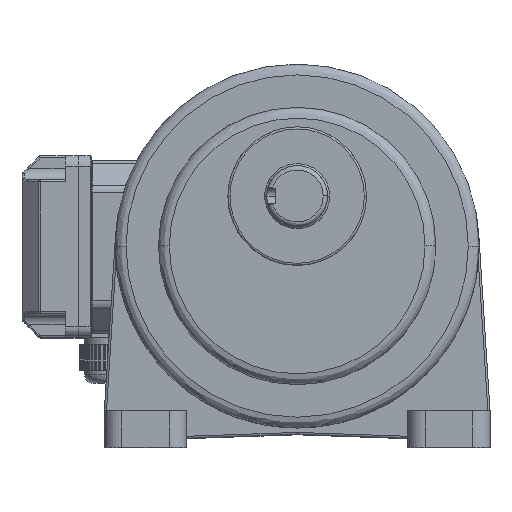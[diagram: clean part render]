
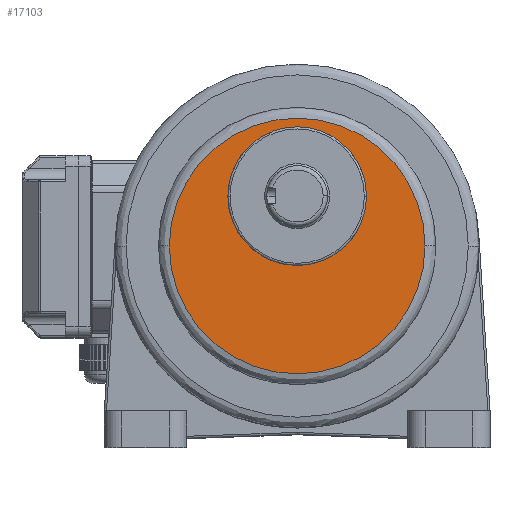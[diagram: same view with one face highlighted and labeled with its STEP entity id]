
A CAD part, top view. The second image highlights one B-rep face of the part: STEP entity #17103.
In plain terms, the highlighted planar face has unit normal (0, 0, 1).
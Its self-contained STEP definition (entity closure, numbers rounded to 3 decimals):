
#192 = DIRECTION ( 'NONE',  ( 1., 0., 0. ) ) ;
#3008 = EDGE_CURVE ( 'NONE', #68663, #27105, #29530, .T. ) ;
#3362 = CIRCLE ( 'NONE', #27199, 32. ) ;
#4564 = AXIS2_PLACEMENT_3D ( 'NONE', #48785, #32840, #79183 ) ;
#10290 = ORIENTED_EDGE ( 'NONE', *, *, #51156, .F. ) ;
#16797 = AXIS2_PLACEMENT_3D ( 'NONE', #33314, #48280, #86637 ) ;
#16882 = DIRECTION ( 'NONE',  ( 0., 0., 1. ) ) ;
#17103 = ADVANCED_FACE ( 'NONE', ( #79651, #86146 ), #94139, .T. ) ;
#20185 = CARTESIAN_POINT ( 'NONE',  ( 102.841, 96.278, 53.336 ) ) ;
#21840 = CIRCLE ( 'NONE', #98334, 59. ) ;
#22528 = DIRECTION ( 'NONE',  ( 1., 0., 0. ) ) ;
#27105 = VERTEX_POINT ( 'NONE', #62040 ) ;
#27199 = AXIS2_PLACEMENT_3D ( 'NONE', #32377, #16882, #46849 ) ;
#29530 = CIRCLE ( 'NONE', #34074, 32. ) ;
#32377 = CARTESIAN_POINT ( 'NONE',  ( 43.841, 119.278, 53.336 ) ) ;
#32840 = DIRECTION ( 'NONE',  ( 0., 0., 1. ) ) ;
#33314 = CARTESIAN_POINT ( 'NONE',  ( 43.841, 96.278, 53.336 ) ) ;
#34074 = AXIS2_PLACEMENT_3D ( 'NONE', #97856, #90853, #22528 ) ;
#35326 = CARTESIAN_POINT ( 'NONE',  ( 11.841, 119.278, 53.336 ) ) ;
#39580 = CARTESIAN_POINT ( 'NONE',  ( -15.159, 96.278, 53.336 ) ) ;
#46849 = DIRECTION ( 'NONE',  ( 1., 0., 0. ) ) ;
#48250 = EDGE_CURVE ( 'NONE', #75111, #83355, #77832, .T. ) ;
#48280 = DIRECTION ( 'NONE',  ( 0., 0., 1. ) ) ;
#48785 = CARTESIAN_POINT ( 'NONE',  ( 43.841, 96.278, 53.336 ) ) ;
#50775 = EDGE_LOOP ( 'NONE', ( #82441, #57426 ) ) ;
#51156 = EDGE_CURVE ( 'NONE', #27105, #68663, #3362, .T. ) ;
#54533 = DIRECTION ( 'NONE',  ( 0., 0., 1. ) ) ;
#57426 = ORIENTED_EDGE ( 'NONE', *, *, #78982, .T. ) ;
#61257 = ORIENTED_EDGE ( 'NONE', *, *, #3008, .F. ) ;
#62040 = CARTESIAN_POINT ( 'NONE',  ( 75.841, 119.278, 53.336 ) ) ;
#68491 = CARTESIAN_POINT ( 'NONE',  ( 43.841, 96.278, 53.336 ) ) ;
#68663 = VERTEX_POINT ( 'NONE', #35326 ) ;
#75111 = VERTEX_POINT ( 'NONE', #20185 ) ;
#77832 = CIRCLE ( 'NONE', #4564, 59. ) ;
#78982 = EDGE_CURVE ( 'NONE', #83355, #75111, #21840, .T. ) ;
#79183 = DIRECTION ( 'NONE',  ( 1., 0., 0. ) ) ;
#79651 = FACE_OUTER_BOUND ( 'NONE', #50775, .T. ) ;
#82441 = ORIENTED_EDGE ( 'NONE', *, *, #48250, .T. ) ;
#83355 = VERTEX_POINT ( 'NONE', #39580 ) ;
#85705 = EDGE_LOOP ( 'NONE', ( #10290, #61257 ) ) ;
#86146 = FACE_BOUND ( 'NONE', #85705, .T. ) ;
#86637 = DIRECTION ( 'NONE',  ( 1., 0., 0. ) ) ;
#90853 = DIRECTION ( 'NONE',  ( 0., 0., 1. ) ) ;
#94139 = PLANE ( 'NONE',  #16797 ) ;
#97856 = CARTESIAN_POINT ( 'NONE',  ( 43.841, 119.278, 53.336 ) ) ;
#98334 = AXIS2_PLACEMENT_3D ( 'NONE', #68491, #54533, #192 ) ;
